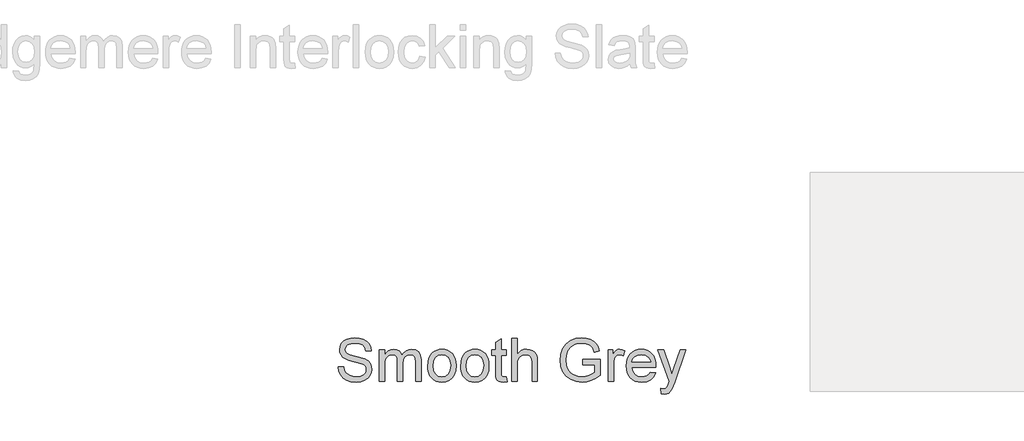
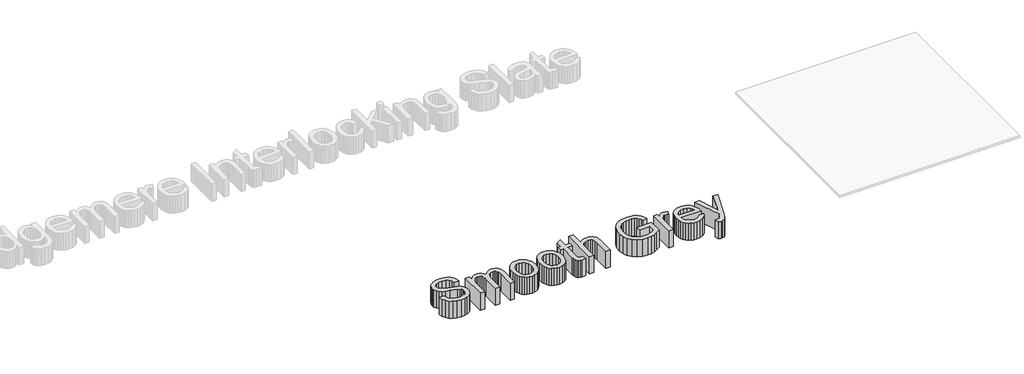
# One storey, part 8 of 8: 1 proxy.
"""IFC4 building model written with IfcOpenShell, lengths in millimetres."""

from ifc_helpers import new_model, si_unit, frame, origin, place, context, project, spatial, polyline, outline, extrude, element, save

model = new_model("IFC4")

# Units and contexts
model_context = context("Model", 3, world=origin())
ifc_project = project(units=[si_unit("LENGTHUNIT", "METRE", prefix="MILLI")], contexts=[model_context])

# Site, building, storey
site = spatial("IfcSite", under=ifc_project)
building = spatial("IfcBuilding", under=site)
storey = spatial("IfcBuildingStorey", under=building, Name="Marley Concrete Interlocking Tiles", Elevation=3000.0)

# Proxy
placement = place(None, origin())
element("IfcBuildingElementProxy", 1, Name="600mm Arial", ObjectType="600mm Arial", at=placement, inside=storey, context=model_context, shape_type="SweptSolid", body=[
    extrude(outline(polyline([(7117.8652908, 3702.5036212), (7154.7883677, 3702.5036212), (7159.0251465, 3682.0138376), (7166.6874061, 3665.5444866), (7178.6405311, 3652.4735732), (7195.7499061, 3642.179102), (7216.6633677, 3635.4994145), (7240.0287523, 3633.272852), (7260.5996658, 3634.9585491), (7278.6104831, 3640.0156405), (7293.204834, 3648.0204482), (7303.5263484, 3658.5492943), (7309.6651706, 3670.6376357), (7311.7114446, 3683.3209289), (7310.1789927, 3695.679703), (7305.5816369, 3706.3617943), (7296.2426946, 3715.475376), (7280.4854831, 3723.1286212), (7226.7234638, 3737.2271789), (7191.4319975, 3746.5571068), (7168.8508677, 3755.4363135), (7150.470459, 3767.8581885), (7137.4446177, 3782.9122751), (7129.6831994, 3800.2740539), (7127.09606, 3819.6190058), (7130.2961802, 3841.2446068), (7139.8965408, 3861.4098712), (7155.6447379, 3878.5012174), (7177.2883677, 3890.9050635), (7203.267935, 3898.4501357), (7232.0239446, 3900.9651597), (7263.1777908, 3898.3329482), (7290.4374061, 3890.4363135), (7312.8292331, 3877.4375155), (7329.3797138, 3859.4988135), (7339.8544734, 3837.7379962), (7344.0191369, 3813.272852), (7307.09606, 3813.272852), (7300.3172138, 3835.304102), (7286.1825984, 3851.2055443), (7264.0972619, 3860.8329482), (7233.4662523, 3864.0420828), (7202.1140888, 3860.8690058), (7180.6056754, 3851.3497751), (7168.1657715, 3837.3413616), (7164.0191369, 3820.7007366), (7166.9578388, 3806.5120347), (7175.7739446, 3795.0997751), (7196.6152908, 3784.8954482), (7236.0624061, 3774.4747751), (7301.3989446, 3755.9411212), (7322.4476225, 3742.5456885), (7337.1321177, 3726.0132366), (7345.7589206, 3706.5240539), (7348.6345215, 3684.2584289), (7345.3262283, 3661.4970107), (7335.4013484, 3640.0877558), (7319.2655311, 3621.6622751), (7297.3244254, 3607.8521789), (7270.939209, 3599.225376), (7241.47106, 3596.3497751), (7205.2961802, 3599.4507366), (7175.5215408, 3608.7536212), (7151.8045936, 3624.2944866), (7133.8027908, 3646.1093905), (7122.2463004, 3672.6839097), (7117.8652908, 3702.5036212)])), frame((0.0, 0.0, 3000.0), z_axis=(0.0, 0.0, 1.0), x_axis=(1.0, 0.0, 0.0)), (0.0, 0.0, 1.0), 150.0),
    extrude(outline(polyline([(7399.4037523, 3600.9651597), (7399.4037523, 3817.8882366), (7436.3268292, 3817.8882366), (7436.3268292, 3782.1911212), (7447.4325984, 3798.5883568), (7461.7114446, 3811.4339097), (7478.6765888, 3819.7361933), (7497.8412523, 3822.5036212), (7518.3761081, 3819.6821068), (7534.8364446, 3811.2175635), (7547.1321177, 3797.6688857), (7555.1729831, 3779.5949674), (7568.6315167, 3798.3675034), (7583.9830792, 3811.7764578), (7601.2276706, 3819.8218304), (7620.3652908, 3822.5036212), (7648.1206994, 3818.0414818), (7668.6465408, 3804.6550635), (7681.329834, 3781.9837895), (7685.5575984, 3749.6670828), (7685.5575984, 3600.9651597), (7648.6345215, 3600.9651597), (7648.6345215, 3733.8016982), (7645.2090408, 3764.6310251), (7640.3953388, 3773.131626), (7632.8051946, 3779.8113135), (7623.0425744, 3784.1382366), (7611.7114446, 3785.5805443), (7591.7084398, 3781.8846308), (7575.4013484, 3770.7968905), (7564.5569975, 3751.5601116), (7560.9422138, 3723.4170828), (7560.9422138, 3600.9651597), (7524.0191369, 3600.9651597), (7524.0191369, 3737.9122751), (7521.8827186, 3758.7896789), (7515.4734638, 3773.6815058), (7504.1964206, 3782.6057847), (7487.4566369, 3785.5805443), (7473.2318773, 3783.5973712), (7460.1249061, 3777.647852), (7449.3075984, 3767.8762174), (7441.9518292, 3754.4266982), (7437.7330792, 3735.7668424), (7436.3268292, 3710.3641982), (7436.3268292, 3600.9651597), (7399.4037523, 3600.9651597)])), frame((0.0, 0.0, 3000.0), z_axis=(0.0, 0.0, 1.0), x_axis=(1.0, 0.0, 0.0)), (0.0, 0.0, 1.0), 150.0),
    extrude(outline(polyline([(7731.7114446, 3709.4266982), (7733.7081393, 3737.5201477), (7739.6982234, 3761.7283808), (7749.681697, 3782.0513977), (7763.65856, 3798.4891982), (7777.7300744, 3808.9955082), (7793.2619254, 3816.5000155), (7810.2541129, 3821.0027198), (7828.7066369, 3822.5036212), (7849.0769795, 3820.6759469), (7867.4956994, 3815.1929241), (7883.9627968, 3806.0545527), (7898.4782715, 3793.2608328), (7910.325477, 3777.2444566), (7918.7877667, 3758.4381164), (7923.8651405, 3736.8418123), (7925.5575984, 3712.4555443), (7922.56481, 3675.1538616), (7913.5864446, 3646.7584289), (7898.8839206, 3625.4934049), (7878.7186561, 3609.5829482), (7854.767334, 3599.6580683), (7828.7066369, 3596.3497751), (7808.0388184, 3598.1706885), (7789.4488244, 3603.6334289), (7772.9366549, 3612.7379962), (7758.50231, 3625.4843905), (7746.7813064, 3641.6562655), (7738.4091609, 3661.0372751), (7733.3858737, 3683.6274193), (7731.7114446, 3709.4266982)]), holes=[polyline([(7768.6345215, 3709.4988135), (7772.9073581, 3676.0823472), (7785.7258677, 3652.2752558), (7805.0167331, 3638.023453), (7828.7066369, 3633.272852), (7852.2883677, 3638.0504962), (7871.5431754, 3652.3834289), (7884.361685, 3676.5060251), (7888.6345215, 3710.6526597), (7884.3346417, 3743.0955683), (7871.4350023, 3766.5781405), (7852.1531513, 3780.8299433), (7828.7066369, 3785.5805443), (7805.0167331, 3780.8479722), (7785.7258677, 3766.6502558), (7772.9073581, 3742.897251), (7768.6345215, 3709.4988135)])]), frame((0.0, 0.0, 3000.0), z_axis=(0.0, 0.0, 1.0), x_axis=(1.0, 0.0, 0.0)), (0.0, 0.0, 1.0), 150.0),
    extrude(outline(polyline([(7957.8652908, 3709.4266982), (7959.8619855, 3737.5201477), (7965.8520696, 3761.7283808), (7975.8355432, 3782.0513977), (7989.8124061, 3798.4891982), (8003.8839206, 3808.9955082), (8019.4157715, 3816.5000155), (8036.407959, 3821.0027198), (8054.8604831, 3822.5036212), (8075.2308256, 3820.6759469), (8093.6495456, 3815.1929241), (8110.1166429, 3806.0545527), (8124.6321177, 3793.2608328), (8136.4793232, 3777.2444566), (8144.9416129, 3758.4381164), (8150.0189867, 3736.8418123), (8151.7114446, 3712.4555443), (8148.7186561, 3675.1538616), (8139.7402908, 3646.7584289), (8125.0377667, 3625.4934049), (8104.8725023, 3609.5829482), (8080.9211802, 3599.6580683), (8054.8604831, 3596.3497751), (8034.1926645, 3598.1706885), (8015.6026706, 3603.6334289), (7999.0905011, 3612.7379962), (7984.6561561, 3625.4843905), (7972.9351525, 3641.6562655), (7964.5630071, 3661.0372751), (7959.5397198, 3683.6274193), (7957.8652908, 3709.4266982)]), holes=[polyline([(7994.7883677, 3709.4988135), (7999.0612042, 3676.0823472), (8011.8797138, 3652.2752558), (8031.1705792, 3638.023453), (8054.8604831, 3633.272852), (8078.4422138, 3638.0504962), (8097.6970215, 3652.3834289), (8110.5155311, 3676.5060251), (8114.7883677, 3710.6526597), (8110.4884879, 3743.0955683), (8097.5888484, 3766.5781405), (8078.3069975, 3780.8299433), (8054.8604831, 3785.5805443), (8031.1705792, 3780.8479722), (8011.8797138, 3766.6502558), (7999.0612042, 3742.897251), (7994.7883677, 3709.4988135)])]), frame((0.0, 0.0, 3000.0), z_axis=(0.0, 0.0, 1.0), x_axis=(1.0, 0.0, 0.0)), (0.0, 0.0, 1.0), 150.0),
    extrude(outline(polyline([(8271.7114446, 3631.7584289), (8276.3268292, 3599.8834289), (8248.7066369, 3596.3497751), (8230.9842811, 3597.882227), (8217.7691369, 3602.4795828), (8208.4301946, 3609.5649193), (8202.3364446, 3618.5613135), (8198.9830792, 3634.0120347), (8197.8652908, 3660.460352), (8197.8652908, 3780.9651597), (8170.1729831, 3780.9651597), (8170.1729831, 3817.8882366), (8197.8652908, 3817.8882366), (8197.8652908, 3870.6045828), (8234.7883677, 3892.3113135), (8234.7883677, 3817.8882366), (8271.7114446, 3817.8882366), (8271.7114446, 3780.9651597), (8234.7883677, 3780.9651597), (8234.7883677, 3661.5420828), (8236.7354831, 3642.5036212), (8243.0455792, 3635.7608328), (8255.6297138, 3633.272852), (8271.7114446, 3631.7584289)])), frame((0.0, 0.0, 3000.0), z_axis=(0.0, 0.0, 1.0), x_axis=(1.0, 0.0, 0.0)), (0.0, 0.0, 1.0), 150.0),
    extrude(outline(polyline([(8308.6345215, 3600.9651597), (8308.6345215, 3896.3497751), (8345.5575984, 3896.3497751), (8345.5575984, 3787.7440058), (8359.119798, 3802.9513376), (8374.3496658, 3813.8137174), (8391.2472018, 3820.3311453), (8409.8124061, 3822.5036212), (8432.1140888, 3820.132828), (8451.2787523, 3813.0204482), (8466.3688965, 3801.725376), (8476.4470215, 3786.8065058), (8482.1261081, 3766.3077078), (8484.0191369, 3738.272852), (8484.0191369, 3600.9651597), (8447.09606, 3600.9651597), (8447.09606, 3734.4507366), (8444.1573581, 3757.5637174), (8435.3412523, 3773.3930443), (8421.1345215, 3782.5336693), (8402.0239446, 3785.5805443), (8386.4199783, 3783.5252558), (8371.7715408, 3777.3593905), (8359.6381273, 3767.6779001), (8351.5792331, 3755.0757366), (8347.0630071, 3738.3269385), (8345.5575984, 3716.2055443), (8345.5575984, 3600.9651597), (8308.6345215, 3600.9651597)])), frame((0.0, 0.0, 3000.0), z_axis=(0.0, 0.0, 1.0), x_axis=(1.0, 0.0, 0.0)), (0.0, 0.0, 1.0), 150.0),
    extrude(outline(polyline([(8793.2499061, 3716.3497751), (8793.2499061, 3753.272852), (8913.2499061, 3753.272852), (8913.2499061, 3642.8641982), (8884.0882475, 3622.5817462), (8854.0071177, 3608.0324674), (8823.0786321, 3599.2704482), (8791.3749061, 3596.3497751), (8749.9536321, 3600.992203), (8712.5167331, 3614.9194866), (8681.4169734, 3637.6448472), (8659.0071177, 3668.6815058), (8645.4584398, 3705.9110732), (8640.9422138, 3747.2151597), (8645.4404109, 3788.8167222), (8658.9350023, 3827.5156405), (8680.8670936, 3859.976578), (8710.6777908, 3882.8641982), (8746.9878869, 3896.4399193), (8788.4181754, 3900.9651597), (8818.8328388, 3898.3419626), (8846.1825984, 3890.4723712), (8869.2144494, 3877.9242943), (8886.6753869, 3861.2656405), (8899.5930552, 3839.694126), (8908.9950984, 3812.4074674), (8874.9566369, 3802.8161212), (8867.3574783, 3822.2782607), (8858.1176946, 3836.9627558), (8845.8941369, 3848.0324674), (8829.3436561, 3856.6502558), (8809.611084, 3862.194126), (8787.8412523, 3864.0420828), (8762.3574783, 3862.0498953), (8740.5696177, 3856.0733328), (8722.5588004, 3846.8605924), (8708.4061561, 3835.1598712), (8689.4037523, 3806.710352), (8680.7499061, 3778.8377558), (8677.8652908, 3748.7295828), (8681.3358436, 3713.4200876), (8691.7475023, 3684.366602), (8708.7847619, 3661.7764578), (8732.1321177, 3645.8569866), (8759.454834, 3636.4188857), (8788.4181754, 3633.272852), (8813.9920936, 3635.6436453), (8838.9350023, 3642.7560251), (8860.5966609, 3652.554703), (8876.3268292, 3662.9843905), (8876.3268292, 3716.3497751), (8793.2499061, 3716.3497751)])), frame((0.0, 0.0, 3000.0), z_axis=(0.0, 0.0, 1.0), x_axis=(1.0, 0.0, 0.0)), (0.0, 0.0, 1.0), 150.0),
    extrude(outline(polyline([(8968.6345215, 3600.9651597), (8968.6345215, 3817.8882366), (9000.9422138, 3817.8882366), (9000.9422138, 3785.7968905), (9012.87731, 3804.4026597), (9023.8749061, 3815.3641982), (9034.90856, 3820.7187655), (9046.9518292, 3822.5036212), (9065.3412523, 3819.6550635), (9084.0191369, 3811.1093905), (9071.6874061, 3778.0084289), (9058.7066369, 3783.6875155), (9045.7258677, 3785.5805443), (9034.7012283, 3783.7596308), (9024.8484638, 3778.2968905), (9016.8887283, 3769.6069866), (9011.5431754, 3758.1045828), (9007.0539927, 3737.4795828), (9005.5575984, 3714.9795828), (9005.5575984, 3600.9651597), (8968.6345215, 3600.9651597)])), frame((0.0, 0.0, 3000.0), z_axis=(0.0, 0.0, 1.0), x_axis=(1.0, 0.0, 0.0)), (0.0, 0.0, 1.0), 150.0),
    extrude(outline(polyline([(9258.97106, 3665.5805443), (9295.1729831, 3660.9651597), (9282.1291129, 3633.6875155), (9261.31481, 3613.2968905), (9233.1988244, 3600.5865539), (9198.2499061, 3596.3497751), (9175.3397499, 3598.1774494), (9154.9265888, 3603.6604722), (9137.010423, 3612.7988436), (9121.5912523, 3625.5925635), (9109.1919133, 3641.6855623), (9100.3352427, 3660.7217703), (9095.0212403, 3682.7011873), (9093.2499061, 3707.6238135), (9095.0392691, 3733.3915419), (9100.4073581, 3756.1033808), (9109.354173, 3775.7593304), (9121.8797138, 3792.3593905), (9137.2583196, 3805.5474914), (9154.7643292, 3814.9675635), (9174.3977427, 3820.6196068), (9196.15856, 3822.5036212), (9217.2185059, 3820.624114), (9236.2637283, 3814.9855924), (9253.294227, 3805.5880563), (9268.3100023, 3792.4315058), (9280.5673641, 3775.8675034), (9289.3226225, 3756.2476116), (9294.5757775, 3733.5718304), (9296.3268292, 3707.8401597), (9296.1104831, 3697.8882366), (9130.1729831, 3697.8882366), (9136.564209, 3670.2500155), (9151.4109638, 3649.9315058), (9172.8382475, 3637.4375155), (9198.97106, 3633.272852), (9218.6225023, 3635.2019385), (9235.1729831, 3640.9891982), (9248.6225023, 3650.9952078), (9258.97106, 3665.5805443)]), holes=[polyline([(9130.1729831, 3734.8113135), (9259.4037523, 3734.8113135), (9254.4097619, 3754.3185251), (9244.6200984, 3768.272852), (9223.0936561, 3781.2536212), (9196.0143292, 3785.5805443), (9171.1255071, 3782.1280203), (9150.5455792, 3771.7704482), (9136.2396898, 3755.6256164), (9130.1729831, 3734.8113135)])]), frame((0.0, 0.0, 3000.0), z_axis=(0.0, 0.0, 1.0), x_axis=(1.0, 0.0, 0.0)), (0.0, 0.0, 1.0), 150.0),
    extrude(outline(polyline([(9333.2499061, 3517.8882366), (9328.6345215, 3553.4411212), (9347.3845215, 3550.1959289), (9364.90856, 3554.2704482), (9375.6537523, 3565.6286212), (9385.7499061, 3592.8161212), (9388.6345215, 3601.7584289), (9310.1729831, 3817.8882366), (9349.1152908, 3817.8882366), (9390.7258677, 3697.4555443), (9405.22106, 3649.2824674), (9419.7162523, 3691.8305443), (9462.4806754, 3817.8882366), (9501.1345215, 3817.8882366), (9425.6297138, 3595.772852), (9406.0143292, 3547.5997751), (9395.9722619, 3532.2211693), (9384.59606, 3521.5661212), (9371.3809158, 3515.3461693), (9355.8220215, 3513.272852), (9333.2499061, 3517.8882366)])), frame((0.0, 0.0, 3000.0), z_axis=(0.0, 0.0, 1.0), x_axis=(1.0, 0.0, 0.0)), (0.0, 0.0, 1.0), 150.0),
])

save(model, "model.ifc")
